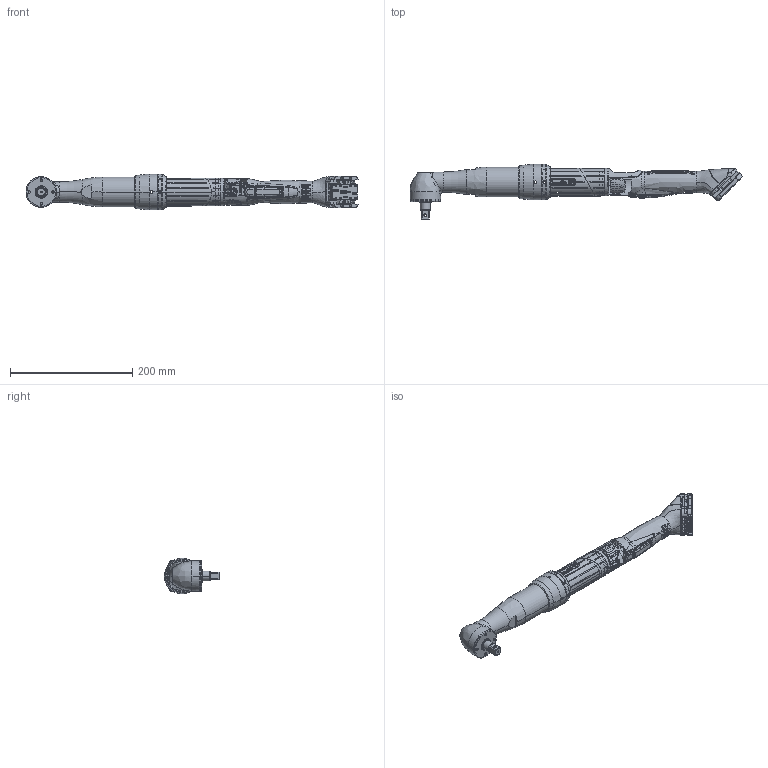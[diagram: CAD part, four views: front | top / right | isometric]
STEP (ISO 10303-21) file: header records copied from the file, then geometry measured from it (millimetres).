
FILE_DESCRIPTION((''),'2;1');
FILE_NAME('6151663240_DIM','2025-05-15T14:45:51',('SYSTEM'),(''),'CREO PARAMETRIC BY PTC INC, 2022414','CREO PARAMETRIC BY PTC INC, 2022414','');
FILE_SCHEMA(('AP242_MANAGED_MODEL_BASED_3D_ENGINEERING_MIM_LF { 1 0 10303 442 1 1 4 }'));
Length unit declared in the file: millimetre
Products named in the file (1): 6151663240_DIM
Bounding box: 543.53 x 90.4 x 58 mm (x, y, z)
Surface area: 98730.1 mm2 (no closed solid volume)
Topology: 0 solids, 370 shells, 2820 faces, 11552 edges, 8802 vertices
Faces by surface type: extrusion 1185, plane 991, bspline 299, cylinder 228, cone 73, torus 34, sphere 10
Entity records: 169430 total; most frequent: CARTESIAN_POINT 65967, ORIENTED_EDGE 14735, DIRECTION 11563, EDGE_CURVE 11530, VERTEX_POINT 8800, VECTOR 7023, B_SPLINE_CURVE_WITH_KNOTS 5943, LINE 5838
